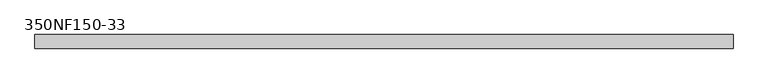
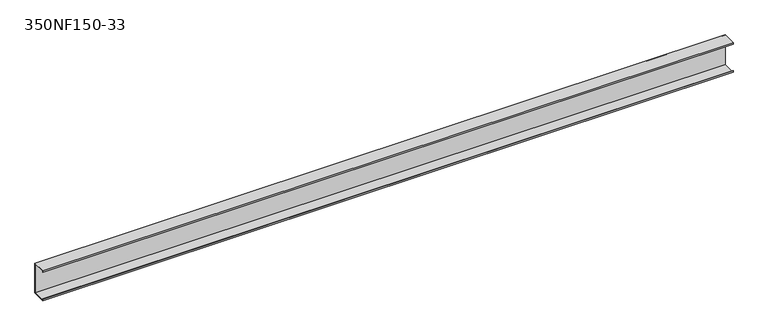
"""IFC4 building model written with IfcOpenShell, lengths in millimetres: beam geometry, BIMSF-SSMA-S : 350NF150-33."""

from ifc_helpers import new_model, si_unit, frame, origin, place, context, project, spatial, polyline, outline, extrude, source, transform, mapped, element, save


def beam_350nf150_33_4bfafa5c(model_context):
    return source(origin(), model_context, "Body", "SweptSolid", [
        extrude(outline(polyline([(19.05, 44.45), (19.05, -44.45), (-19.05, -44.45), (-19.05, -39.6748), (-18.1676842, -39.6748), (-18.1676842, -43.5676842), (18.1676842, -43.5676842), (18.1676842, 43.5676842), (-18.1676842, 43.5676842), (-18.1676842, 39.6748), (-19.05, 39.6748), (-19.05, 44.45), (19.05, 44.45)])), frame((-973.1375, 0.0, 0.0), z_axis=(1.0, 0.0, 0.0), x_axis=(0.0, 1.0, 0.0)), (0.0, 0.0, 1.0), 1946.275),
    ])


if __name__ == "__main__":
    model = new_model("IFC4")
    model_context = context("Model", 3, world=origin())
    ifc_project = project(units=[si_unit("LENGTHUNIT", "METRE", prefix="MILLI")], contexts=[model_context])
    site = spatial("IfcSite", under=ifc_project)
    building = spatial("IfcBuilding", under=site)
    placement = place(None, origin())
    beam_350nf150_33_shape = beam_350nf150_33_4bfafa5c(model_context)
    element("IfcBeam", 1, ObjectType="BIMSF-SSMA-S : 350NF150-33", at=placement, inside=building, context=model_context, shape_type="MappedRepresentation", body=[
        mapped(beam_350nf150_33_shape, transform((0.0, 0.0, 0.0), x_axis=(1.0, 0.0, 0.0), y_axis=(0.0, 1.0, 0.0), z_axis=(0.0, 0.0, 1.0))),
    ])
    save(model, "model.ifc")
